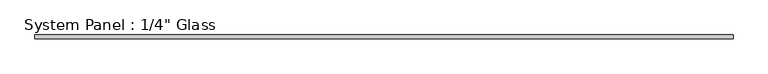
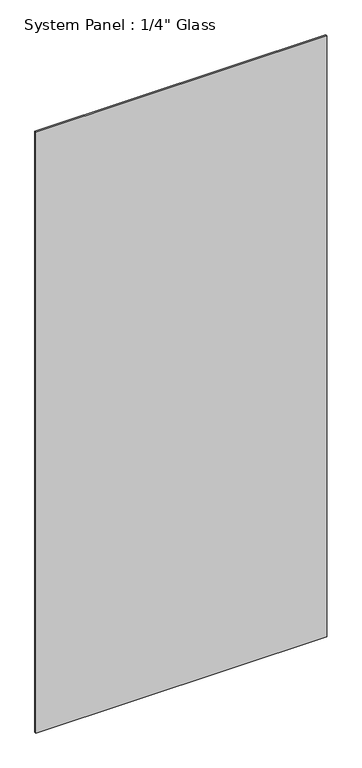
"""IFC4 building model written with IfcOpenShell, lengths in millimetres: plate geometry."""

from ifc_helpers import new_model, si_unit, origin, origin_with_axes, place, context, project, spatial, polyline, outline, extrude, source, transform, mapped, element, save


def plate_c3b8b83d(model_context):
    return source(origin(), model_context, "Body", "SweptSolid", [
        extrude(outline(polyline([(570.0018363, -3.175), (-570.0018363, -3.175), (-570.0018363, 3.175), (570.0018363, 3.175), (570.0018363, -3.175)])), origin_with_axes(), (0.0, 0.0, 1.0), 2489.2),
    ])


if __name__ == "__main__":
    model = new_model("IFC4")
    model_context = context("Model", 3, world=origin())
    ifc_project = project(units=[si_unit("LENGTHUNIT", "METRE", prefix="MILLI")], contexts=[model_context])
    site = spatial("IfcSite", under=ifc_project)
    building = spatial("IfcBuilding", under=site)
    placement = place(None, origin())
    plate_shape = plate_c3b8b83d(model_context)
    element("IfcPlate", 1, ObjectType="System Panel : 1/4\" Glass", at=placement, inside=building, context=model_context, shape_type="MappedRepresentation", body=[
        mapped(plate_shape, transform((0.0, 0.0, 0.0), x_axis=(1.0, 0.0, 0.0), y_axis=(0.0, 1.0, 0.0), z_axis=(0.0, 0.0, 1.0))),
    ])
    save(model, "model.ifc")
